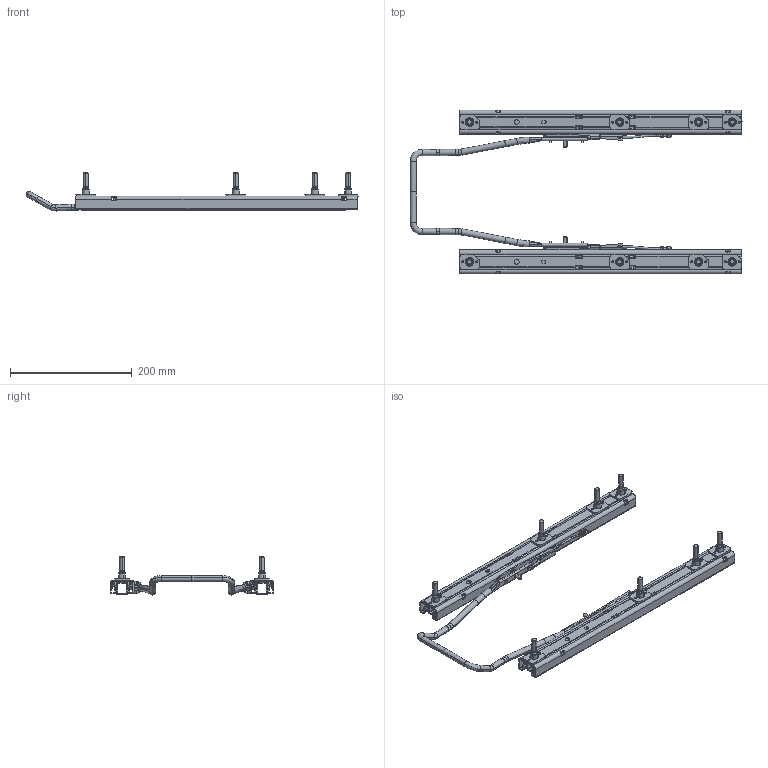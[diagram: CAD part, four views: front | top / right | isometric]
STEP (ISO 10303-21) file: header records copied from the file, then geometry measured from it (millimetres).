
FILE_DESCRIPTION(('CATIA V5 STEP Exchange'),'2;1');
FILE_NAME('E:\吉利商用车G3\07问题清单\ECR0009830-手动滑轨增加定位销和变更工装安装孔变更\更改后.stp','2023-10-10T09:09:38+00:00',('none'),('none'),'CATIA Version 5 Release 20 GA (IN-10)','CATIA V5 STEP AP214','none');
FILE_SCHEMA(('AUTOMOTIVE_DESIGN { 1 0 10303 214 1 1 1 1 }'));
Products named in the file (1): G3_MAN 230518
Bounding box: 546.46 x 269.69 x 62.63 mm (x, y, z)
Volume: 448390.6 mm3; surface area: 440317.9 mm2
Topology: 39 solids, 39 shells, 3317 faces, 9512 edges, 6164 vertices
Faces by surface type: cylinder 1409, plane 1082, bspline 224, torus 214, cone 180, sphere 128, revolution 48, extrusion 32
Entity records: 147873 total; most frequent: CARTESIAN_POINT 68116, ORIENTED_EDGE 18806, DIRECTION 12432, EDGE_CURVE 9403, VERTEX_POINT 6158, AXIS2_PLACEMENT_3D 5266, VECTOR 4652, LINE 4620
